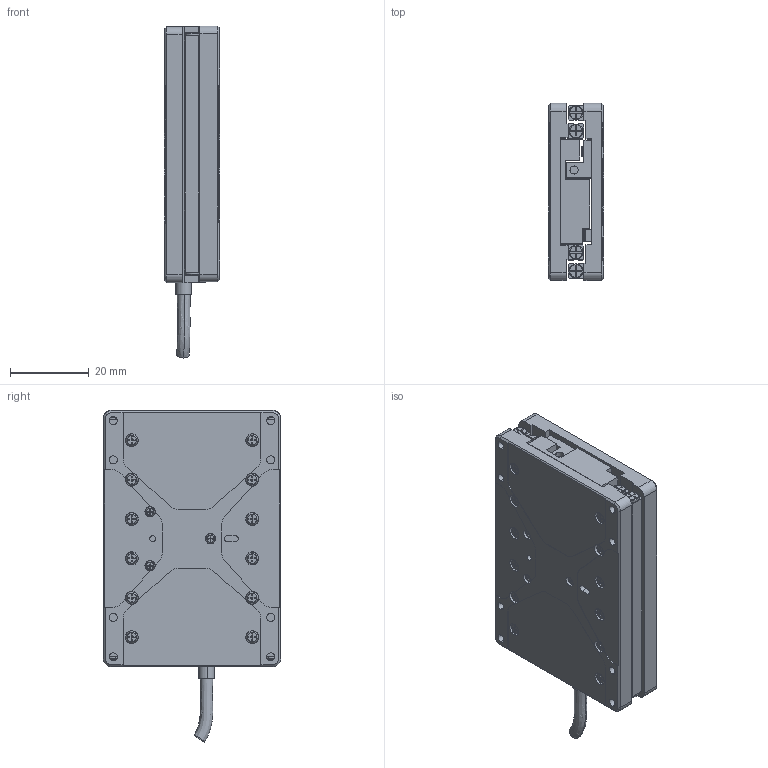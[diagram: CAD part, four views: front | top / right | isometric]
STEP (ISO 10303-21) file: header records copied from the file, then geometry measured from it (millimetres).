
FILE_DESCRIPTION (( 'STEP AP214' ), '1' );
FILE_NAME ('LS 654514_rendrering.STEP', '2021-11-02T18:25:52', ( '' ), ( '' ), 'SwSTEP 2.0', 'SolidWorks 2016', '' );
FILE_SCHEMA (( 'AUTOMOTIVE_DESIGN' ));
Length unit declared in the file: millimetre
Products named in the file (15): SNZS_M2_8; BackConnector; Base; Top; Tryckskruvholder; Part3^LS 654514_rendrering; Linear scale 15,6; LS 654514_rendrering; PACK-SMIB1_6-2_2_14; Scaleholder; Tryckstiftholder; SV1060_16Z_3; SNZS_M1_6_6; Cable; FrontConnector
Assembly tree (44 placements, depth 2):
  Part3^LS 654514_rendrering
  LS 654514_rendrering
    Base
    Top
    Tryckstiftholder
    Tryckskruvholder
    Linear scale 15,6
    FrontConnector
    PACK-SMIB1_6-2_2_14  x4
    Scaleholder
    BackConnector
    SV1060_16Z_3  x4
    Cable
    SNZS_M2_8  x24
    SNZS_M1_6_6  x3
Bounding box: 14 x 45 x 84.32 mm (x, y, z)
Volume: 28116.7 mm3; surface area: 27321.1 mm2
Topology: 44 solids, 44 shells, 2352 faces, 5417 edges, 3238 vertices
Faces by surface type: plane 1361, cylinder 527, cone 322, torus 108, bspline 34
Entity records: 31150 total; most frequent: CARTESIAN_POINT 5196, DIRECTION 5097, ORIENTED_EDGE 4564, EDGE_CURVE 2282, AXIS2_PLACEMENT_3D 1878, VERTEX_POINT 1458, VECTOR 1341, LINE 1341
